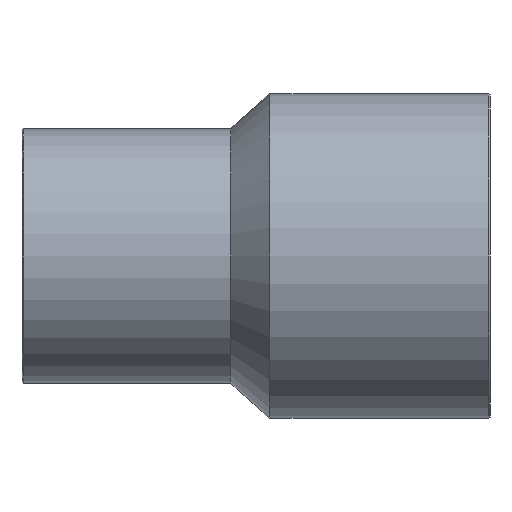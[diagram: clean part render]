
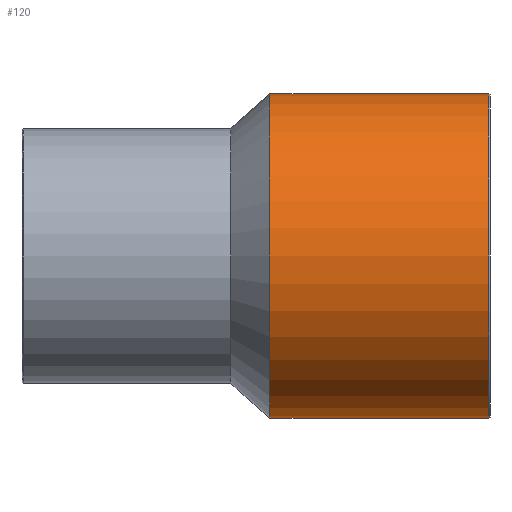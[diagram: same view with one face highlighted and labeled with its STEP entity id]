
A CAD part, front view. The second image highlights one B-rep face of the part: STEP entity #120.
In plain terms, the highlighted cylindrical face has radius 70 mm (diameter 140 mm), a full revolution.
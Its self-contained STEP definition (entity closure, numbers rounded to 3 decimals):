
#26=ORIENTED_EDGE('',*,*,#46,.T.);
#27=ORIENTED_EDGE('',*,*,#47,.F.);
#46=EDGE_CURVE('',#56,#56,#66,.T.);
#47=EDGE_CURVE('',#57,#57,#67,.T.);
#56=VERTEX_POINT('',#208);
#57=VERTEX_POINT('',#210);
#66=CIRCLE('',#144,70.);
#67=CIRCLE('',#145,70.);
#76=EDGE_LOOP('',(#26));
#77=EDGE_LOOP('',(#27));
#96=FACE_BOUND('',#76,.T.);
#97=FACE_BOUND('',#77,.T.);
#116=CYLINDRICAL_SURFACE('',#143,70.);
#120=ADVANCED_FACE('',(#96,#97),#116,.T.);
#143=AXIS2_PLACEMENT_3D('',#206,#165,#166);
#144=AXIS2_PLACEMENT_3D('',#207,#167,#168);
#145=AXIS2_PLACEMENT_3D('',#209,#169,#170);
#165=DIRECTION('',(-1.,0.,0.));
#166=DIRECTION('',(0.,0.,1.));
#167=DIRECTION('',(-1.,0.,0.));
#168=DIRECTION('',(0.,0.,1.));
#169=DIRECTION('',(-1.,0.,0.));
#170=DIRECTION('',(0.,0.,1.));
#206=CARTESIAN_POINT('',(-60.,0.,0.));
#207=CARTESIAN_POINT('',(103.,0.,0.));
#208=CARTESIAN_POINT('',(103.,0.,70.));
#209=CARTESIAN_POINT('',(8.5,0.,0.));
#210=CARTESIAN_POINT('',(8.5,0.,70.));
